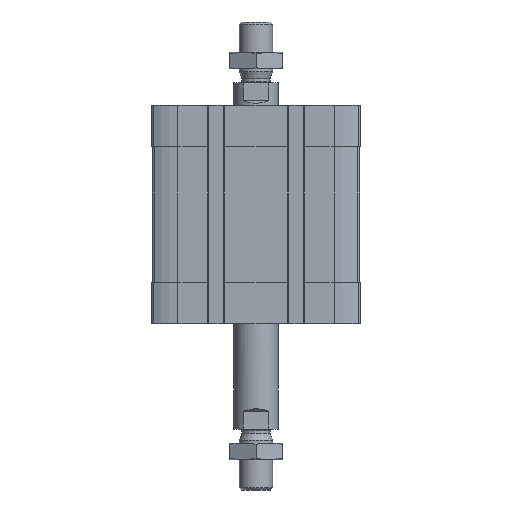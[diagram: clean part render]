
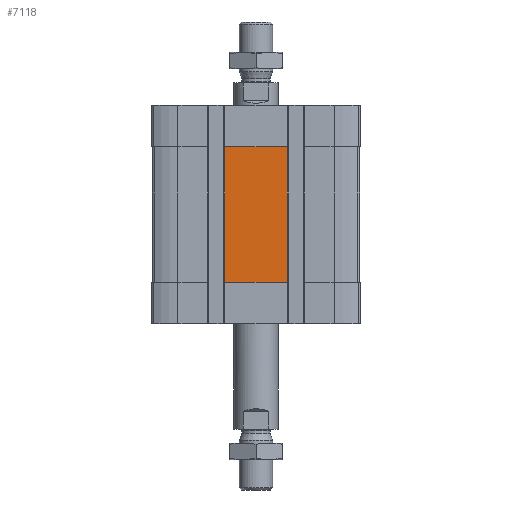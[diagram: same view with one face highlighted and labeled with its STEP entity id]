
A CAD part, front view. The second image highlights one B-rep face of the part: STEP entity #7118.
In plain terms, the highlighted planar face has unit normal (0, -1, 0).
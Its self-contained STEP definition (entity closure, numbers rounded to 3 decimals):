
#406 = VECTOR ( 'NONE', #6993, 1000. ) ;
#564 = EDGE_CURVE ( 'NONE', #9023, #14503, #4850, .T. ) ;
#755 = CARTESIAN_POINT ( 'NONE',  ( -11.4, -37.5, -15. ) ) ;
#829 = CARTESIAN_POINT ( 'NONE',  ( -11.4, -37.5, -64. ) ) ;
#3089 = LINE ( 'NONE', #8309, #406 ) ;
#3593 = CARTESIAN_POINT ( 'NONE',  ( 11.4, -37.5, -64. ) ) ;
#3659 = VERTEX_POINT ( 'NONE', #3593 ) ;
#3692 = CARTESIAN_POINT ( 'NONE',  ( -11.4, -37.5, -15. ) ) ;
#3787 = DIRECTION ( 'NONE',  ( 1., 0., 0. ) ) ;
#3797 = DIRECTION ( 'NONE',  ( 0., 0., -1. ) ) ;
#4559 = EDGE_CURVE ( 'NONE', #14503, #8447, #15719, .T. ) ;
#4850 = LINE ( 'NONE', #16708, #8890 ) ;
#5021 = ORIENTED_EDGE ( 'NONE', *, *, #4559, .F. ) ;
#5352 = EDGE_CURVE ( 'NONE', #9023, #3659, #11684, .T. ) ;
#5702 = ORIENTED_EDGE ( 'NONE', *, *, #564, .F. ) ;
#5867 = CARTESIAN_POINT ( 'NONE',  ( -11.4, -37.5, -64. ) ) ;
#5955 = ORIENTED_EDGE ( 'NONE', *, *, #12739, .T. ) ;
#6993 = DIRECTION ( 'NONE',  ( 0., 0., 1. ) ) ;
#7118 = ADVANCED_FACE ( 'NONE', ( #16874 ), #15478, .T. ) ;
#7728 = VECTOR ( 'NONE', #3787, 1000. ) ;
#8309 = CARTESIAN_POINT ( 'NONE',  ( 11.4, -37.5, -64. ) ) ;
#8447 = VERTEX_POINT ( 'NONE', #16877 ) ;
#8890 = VECTOR ( 'NONE', #15482, 1000. ) ;
#9023 = VERTEX_POINT ( 'NONE', #5867 ) ;
#11357 = AXIS2_PLACEMENT_3D ( 'NONE', #829, #11555, #3797 ) ;
#11555 = DIRECTION ( 'NONE',  ( 0., -1., 0. ) ) ;
#11604 = CARTESIAN_POINT ( 'NONE',  ( -11.4, -37.5, -64. ) ) ;
#11684 = LINE ( 'NONE', #11604, #14054 ) ;
#12739 = EDGE_CURVE ( 'NONE', #3659, #8447, #3089, .T. ) ;
#13510 = ORIENTED_EDGE ( 'NONE', *, *, #5352, .T. ) ;
#14054 = VECTOR ( 'NONE', #15681, 1000. ) ;
#14503 = VERTEX_POINT ( 'NONE', #755 ) ;
#15478 = PLANE ( 'NONE',  #11357 ) ;
#15482 = DIRECTION ( 'NONE',  ( 0., 0., 1. ) ) ;
#15681 = DIRECTION ( 'NONE',  ( 1., 0., 0. ) ) ;
#15719 = LINE ( 'NONE', #3692, #7728 ) ;
#16708 = CARTESIAN_POINT ( 'NONE',  ( -11.4, -37.5, -64. ) ) ;
#16874 = FACE_OUTER_BOUND ( 'NONE', #17236, .T. ) ;
#16877 = CARTESIAN_POINT ( 'NONE',  ( 11.4, -37.5, -15. ) ) ;
#17236 = EDGE_LOOP ( 'NONE', ( #5021, #5702, #13510, #5955 ) ) ;
